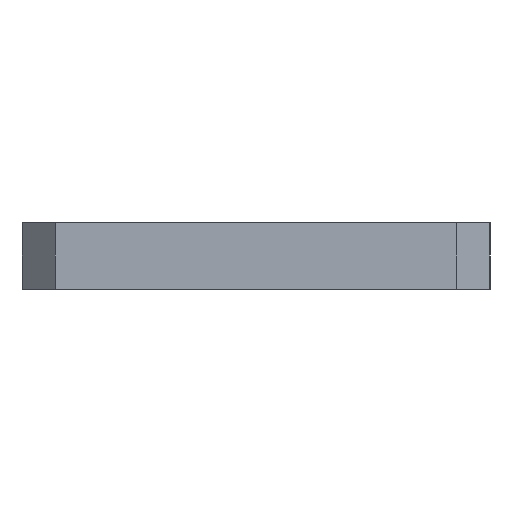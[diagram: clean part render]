
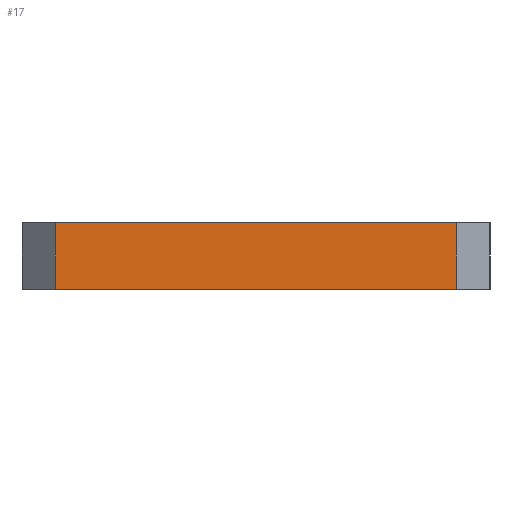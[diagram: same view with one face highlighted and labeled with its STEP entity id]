
A CAD part, left-side view. The second image highlights one B-rep face of the part: STEP entity #17.
In plain terms, the highlighted planar face has unit normal (-1, 0, 0).
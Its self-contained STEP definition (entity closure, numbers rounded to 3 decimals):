
#17 = ADVANCED_FACE('',(#18),#32,.F.);
#18 = FACE_BOUND('',#19,.F.);
#19 = EDGE_LOOP('',(#20,#55,#83,#111));
#20 = ORIENTED_EDGE('',*,*,#21,.F.);
#21 = EDGE_CURVE('',#22,#24,#26,.T.);
#22 = VERTEX_POINT('',#23);
#23 = CARTESIAN_POINT('',(-38.505,-18.1,3.));
#24 = VERTEX_POINT('',#25);
#25 = CARTESIAN_POINT('',(-38.505,18.1,3.));
#26 = SURFACE_CURVE('',#27,(#31,#43),.PCURVE_S1.);
#27 = LINE('',#28,#29);
#28 = CARTESIAN_POINT('',(-38.505,-21.1,3.));
#29 = VECTOR('',#30,1.);
#30 = DIRECTION('',(0.,1.,0.));
#31 = PCURVE('',#32,#37);
#32 = PLANE('',#33);
#33 = AXIS2_PLACEMENT_3D('',#34,#35,#36);
#34 = CARTESIAN_POINT('',(-38.505,-21.1,-3.));
#35 = DIRECTION('',(1.,0.,0.));
#36 = DIRECTION('',(0.,0.,1.));
#37 = DEFINITIONAL_REPRESENTATION('',(#38),#42);
#38 = LINE('',#39,#40);
#39 = CARTESIAN_POINT('',(6.,0.));
#40 = VECTOR('',#41,1.);
#41 = DIRECTION('',(0.,-1.));
#42 = ( GEOMETRIC_REPRESENTATION_CONTEXT(2) 
PARAMETRIC_REPRESENTATION_CONTEXT() REPRESENTATION_CONTEXT('2D SPACE',''
  ) );
#43 = PCURVE('',#44,#49);
#44 = PLANE('',#45);
#45 = AXIS2_PLACEMENT_3D('',#46,#47,#48);
#46 = CARTESIAN_POINT('',(-38.505,-21.1,3.));
#47 = DIRECTION('',(0.,0.,1.));
#48 = DIRECTION('',(1.,0.,0.));
#49 = DEFINITIONAL_REPRESENTATION('',(#50),#54);
#50 = LINE('',#51,#52);
#51 = CARTESIAN_POINT('',(0.,0.));
#52 = VECTOR('',#53,1.);
#53 = DIRECTION('',(0.,1.));
#54 = ( GEOMETRIC_REPRESENTATION_CONTEXT(2) 
PARAMETRIC_REPRESENTATION_CONTEXT() REPRESENTATION_CONTEXT('2D SPACE',''
  ) );
#55 = ORIENTED_EDGE('',*,*,#56,.F.);
#56 = EDGE_CURVE('',#57,#22,#59,.T.);
#57 = VERTEX_POINT('',#58);
#58 = CARTESIAN_POINT('',(-38.505,-18.1,-3.));
#59 = SURFACE_CURVE('',#60,(#64,#71),.PCURVE_S1.);
#60 = LINE('',#61,#62);
#61 = CARTESIAN_POINT('',(-38.505,-18.1,-3.));
#62 = VECTOR('',#63,1.);
#63 = DIRECTION('',(0.,0.,1.));
#64 = PCURVE('',#32,#65);
#65 = DEFINITIONAL_REPRESENTATION('',(#66),#70);
#66 = LINE('',#67,#68);
#67 = CARTESIAN_POINT('',(0.,-3.));
#68 = VECTOR('',#69,1.);
#69 = DIRECTION('',(1.,0.));
#70 = ( GEOMETRIC_REPRESENTATION_CONTEXT(2) 
PARAMETRIC_REPRESENTATION_CONTEXT() REPRESENTATION_CONTEXT('2D SPACE',''
  ) );
#71 = PCURVE('',#72,#77);
#72 = PLANE('',#73);
#73 = AXIS2_PLACEMENT_3D('',#74,#75,#76);
#74 = CARTESIAN_POINT('',(-37.005,-19.6,-3.));
#75 = DIRECTION('',(-0.707,-0.707,0.));
#76 = DIRECTION('',(-0.,-0.,-1.));
#77 = DEFINITIONAL_REPRESENTATION('',(#78),#82);
#78 = LINE('',#79,#80);
#79 = CARTESIAN_POINT('',(-0.,-2.121));
#80 = VECTOR('',#81,1.);
#81 = DIRECTION('',(-1.,0.));
#82 = ( GEOMETRIC_REPRESENTATION_CONTEXT(2) 
PARAMETRIC_REPRESENTATION_CONTEXT() REPRESENTATION_CONTEXT('2D SPACE',''
  ) );
#83 = ORIENTED_EDGE('',*,*,#84,.T.);
#84 = EDGE_CURVE('',#57,#85,#87,.T.);
#85 = VERTEX_POINT('',#86);
#86 = CARTESIAN_POINT('',(-38.505,18.1,-3.));
#87 = SURFACE_CURVE('',#88,(#92,#99),.PCURVE_S1.);
#88 = LINE('',#89,#90);
#89 = CARTESIAN_POINT('',(-38.505,-21.1,-3.));
#90 = VECTOR('',#91,1.);
#91 = DIRECTION('',(0.,1.,0.));
#92 = PCURVE('',#32,#93);
#93 = DEFINITIONAL_REPRESENTATION('',(#94),#98);
#94 = LINE('',#95,#96);
#95 = CARTESIAN_POINT('',(0.,0.));
#96 = VECTOR('',#97,1.);
#97 = DIRECTION('',(0.,-1.));
#98 = ( GEOMETRIC_REPRESENTATION_CONTEXT(2) 
PARAMETRIC_REPRESENTATION_CONTEXT() REPRESENTATION_CONTEXT('2D SPACE',''
  ) );
#99 = PCURVE('',#100,#105);
#100 = PLANE('',#101);
#101 = AXIS2_PLACEMENT_3D('',#102,#103,#104);
#102 = CARTESIAN_POINT('',(-38.505,-21.1,-3.));
#103 = DIRECTION('',(0.,0.,1.));
#104 = DIRECTION('',(1.,0.,0.));
#105 = DEFINITIONAL_REPRESENTATION('',(#106),#110);
#106 = LINE('',#107,#108);
#107 = CARTESIAN_POINT('',(0.,0.));
#108 = VECTOR('',#109,1.);
#109 = DIRECTION('',(0.,1.));
#110 = ( GEOMETRIC_REPRESENTATION_CONTEXT(2) 
PARAMETRIC_REPRESENTATION_CONTEXT() REPRESENTATION_CONTEXT('2D SPACE',''
  ) );
#111 = ORIENTED_EDGE('',*,*,#112,.T.);
#112 = EDGE_CURVE('',#85,#24,#113,.T.);
#113 = SURFACE_CURVE('',#114,(#118,#125),.PCURVE_S1.);
#114 = LINE('',#115,#116);
#115 = CARTESIAN_POINT('',(-38.505,18.1,-3.));
#116 = VECTOR('',#117,1.);
#117 = DIRECTION('',(0.,0.,1.));
#118 = PCURVE('',#32,#119);
#119 = DEFINITIONAL_REPRESENTATION('',(#120),#124);
#120 = LINE('',#121,#122);
#121 = CARTESIAN_POINT('',(0.,-39.2));
#122 = VECTOR('',#123,1.);
#123 = DIRECTION('',(1.,0.));
#124 = ( GEOMETRIC_REPRESENTATION_CONTEXT(2) 
PARAMETRIC_REPRESENTATION_CONTEXT() REPRESENTATION_CONTEXT('2D SPACE',''
  ) );
#125 = PCURVE('',#126,#131);
#126 = PLANE('',#127);
#127 = AXIS2_PLACEMENT_3D('',#128,#129,#130);
#128 = CARTESIAN_POINT('',(-37.005,19.6,-3.));
#129 = DIRECTION('',(0.707,-0.707,0.));
#130 = DIRECTION('',(-0.,-0.,-1.));
#131 = DEFINITIONAL_REPRESENTATION('',(#132),#136);
#132 = LINE('',#133,#134);
#133 = CARTESIAN_POINT('',(-0.,-2.121));
#134 = VECTOR('',#135,1.);
#135 = DIRECTION('',(-1.,0.));
#136 = ( GEOMETRIC_REPRESENTATION_CONTEXT(2) 
PARAMETRIC_REPRESENTATION_CONTEXT() REPRESENTATION_CONTEXT('2D SPACE',''
  ) );
